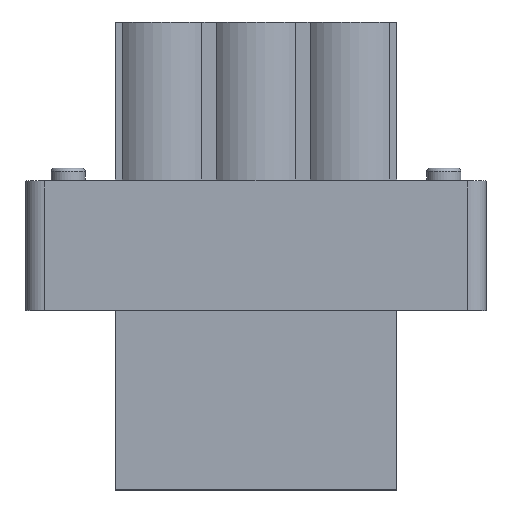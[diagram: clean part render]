
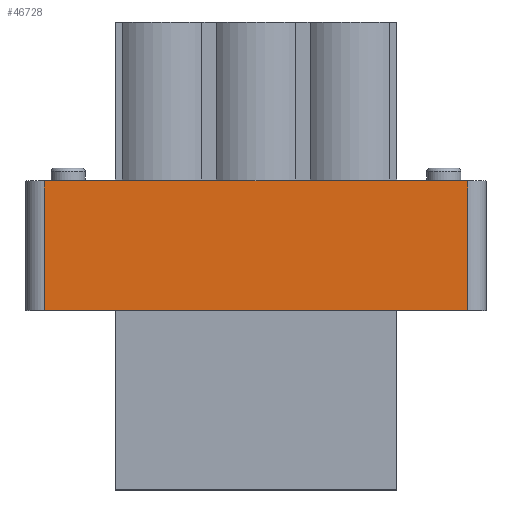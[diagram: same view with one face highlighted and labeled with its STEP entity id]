
A CAD part, top view. The second image highlights one B-rep face of the part: STEP entity #46728.
In plain terms, the highlighted planar face has unit normal (0, 0, 1).
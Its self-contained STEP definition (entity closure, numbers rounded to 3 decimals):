
#16175=DIRECTION('',(1.,0.,0.));
#16176=VECTOR('',#16175,6.37);
#16177=CARTESIAN_POINT('',(17.53,19.703,-0.75));
#16178=LINE('',#16177,#16176);
#16907=DIRECTION('',(-1.,0.,0.));
#16908=VECTOR('',#16907,3.83);
#16909=CARTESIAN_POINT('',(23.9,12.703,-0.75));
#16910=LINE('',#16909,#16908);
#16921=DIRECTION('',(-1.,0.,0.));
#16922=VECTOR('',#16921,15.24);
#16923=CARTESIAN_POINT('',(20.07,12.703,-0.75));
#16924=LINE('',#16923,#16922);
#16930=DIRECTION('',(-1.,0.,0.));
#16931=VECTOR('',#16930,5.08);
#16932=CARTESIAN_POINT('',(17.53,19.703,-0.75));
#16933=LINE('',#16932,#16931);
#16980=DIRECTION('',(-1.,0.,0.));
#16981=VECTOR('',#16980,5.08);
#16982=CARTESIAN_POINT('',(12.45,19.703,-0.75));
#16983=LINE('',#16982,#16981);
#17025=DIRECTION('',(1.,0.,0.));
#17026=VECTOR('',#17025,6.37);
#17027=CARTESIAN_POINT('',(1.,19.703,-0.75));
#17028=LINE('',#17027,#17026);
#17756=DIRECTION('',(-1.,0.,0.));
#17757=VECTOR('',#17756,3.83);
#17758=CARTESIAN_POINT('',(4.83,12.703,-0.75));
#17759=LINE('',#17758,#17757);
#17792=DIRECTION('',(0.,1.,0.));
#17793=VECTOR('',#17792,7.);
#17794=CARTESIAN_POINT('',(1.,12.703,-0.75));
#17795=LINE('',#17794,#17793);
#17978=DIRECTION('',(0.,-1.,0.));
#17979=VECTOR('',#17978,7.);
#17980=CARTESIAN_POINT('',(23.9,19.703,-0.75));
#17981=LINE('',#17980,#17979);
#18706=CARTESIAN_POINT('',(7.37,19.703,-0.75));
#18707=VERTEX_POINT('',#18706);
#18708=CARTESIAN_POINT('',(4.83,12.703,-0.75));
#18709=CARTESIAN_POINT('',(1.,12.703,-0.75));
#18710=VERTEX_POINT('',#18708);
#18711=VERTEX_POINT('',#18709);
#18712=CARTESIAN_POINT('',(1.,19.703,-0.75));
#18713=VERTEX_POINT('',#18712);
#19764=CARTESIAN_POINT('',(12.45,19.703,-0.75));
#19765=VERTEX_POINT('',#19764);
#20965=CARTESIAN_POINT('',(20.07,12.703,-0.75));
#20966=VERTEX_POINT('',#20965);
#20967=CARTESIAN_POINT('',(17.53,19.703,-0.75));
#20968=CARTESIAN_POINT('',(23.9,19.703,-0.75));
#20969=VERTEX_POINT('',#20967);
#20970=VERTEX_POINT('',#20968);
#20971=CARTESIAN_POINT('',(23.9,12.703,-0.75));
#20972=VERTEX_POINT('',#20971);
#46705=CARTESIAN_POINT('',(25.15,19.703,-0.75));
#46706=DIRECTION('',(0.,0.,1.));
#46707=DIRECTION('',(-1.,0.,0.));
#46708=AXIS2_PLACEMENT_3D('',#46705,#46706,#46707);
#46709=PLANE('',#46708);
#46711=ORIENTED_EDGE('',*,*,#46710,.F.);
#46712=ORIENTED_EDGE('',*,*,#45912,.T.);
#46714=ORIENTED_EDGE('',*,*,#46713,.T.);
#46715=ORIENTED_EDGE('',*,*,#46687,.T.);
#46717=ORIENTED_EDGE('',*,*,#46716,.T.);
#46719=ORIENTED_EDGE('',*,*,#46718,.T.);
#46721=ORIENTED_EDGE('',*,*,#46720,.T.);
#46723=ORIENTED_EDGE('',*,*,#46722,.T.);
#46725=ORIENTED_EDGE('',*,*,#46724,.F.);
#46726=EDGE_LOOP('',(#46711,#46712,#46714,#46715,#46717,#46719,#46721,#46723,
#46725));
#46727=FACE_OUTER_BOUND('',#46726,.F.);
#46728=ADVANCED_FACE('',(#46727),#46709,.T.);
#45912=EDGE_CURVE('',#20969,#20970,#16178,.T.);
#46687=EDGE_CURVE('',#20972,#20966,#16910,.T.);
#46710=EDGE_CURVE('',#20969,#19765,#16933,.T.);
#46713=EDGE_CURVE('',#20970,#20972,#17981,.T.);
#46716=EDGE_CURVE('',#20966,#18710,#16924,.T.);
#46718=EDGE_CURVE('',#18710,#18711,#17759,.T.);
#46720=EDGE_CURVE('',#18711,#18713,#17795,.T.);
#46722=EDGE_CURVE('',#18713,#18707,#17028,.T.);
#46724=EDGE_CURVE('',#19765,#18707,#16983,.T.);
